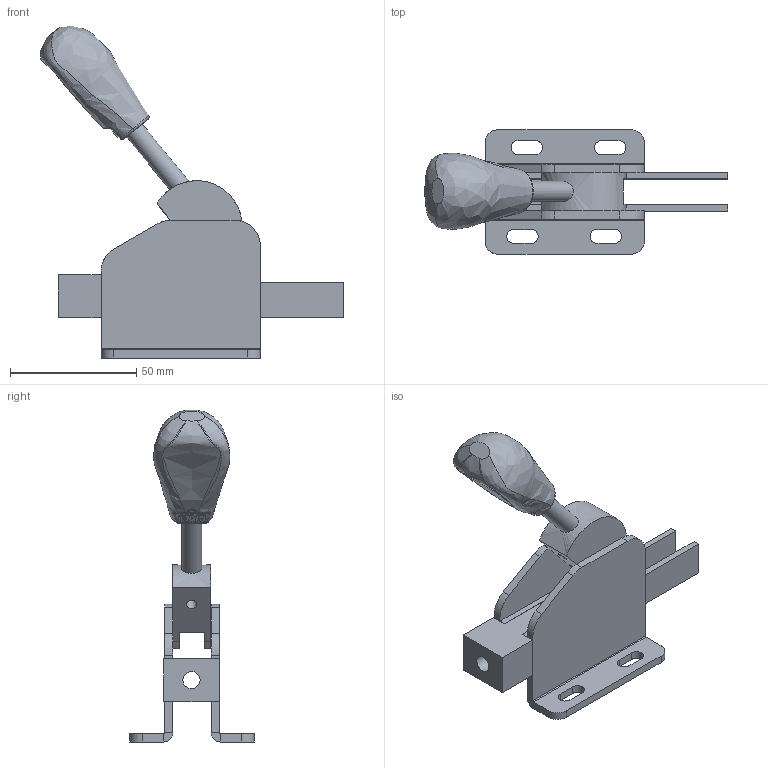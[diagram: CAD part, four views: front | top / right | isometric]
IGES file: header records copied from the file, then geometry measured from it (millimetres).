
Global section: file name: PSP-33ST-UNCLAMP; native system: Autodesk Inventor 2019; preprocessor: unknown; author: 桶田 勝弘,,  11,0; organization: 20180208.063216; date: 20240516.131037; units: millimetre
Bounding box: 120.08 x 49.2 x 131.47 mm (x, y, z)
Volume: 69689.2 mm3; surface area: 38913.6 mm2
Topology: 8 solids, 8 shells, 226 faces, 600 edges, 394 vertices
Faces by surface type: bspline 226
